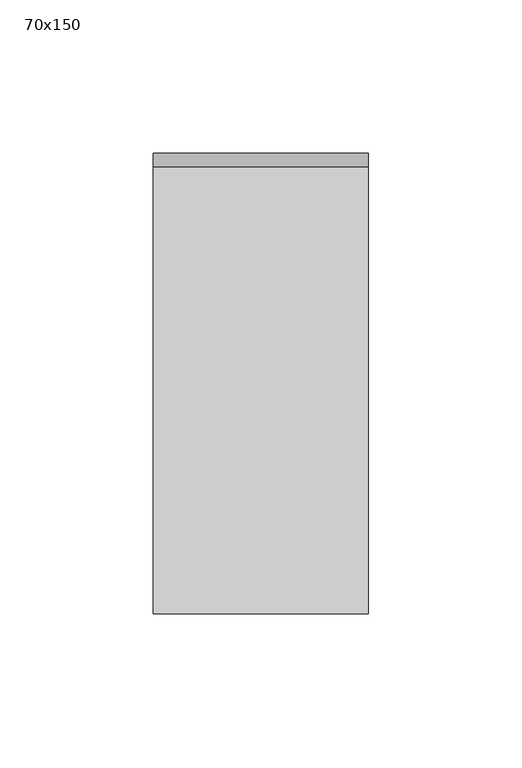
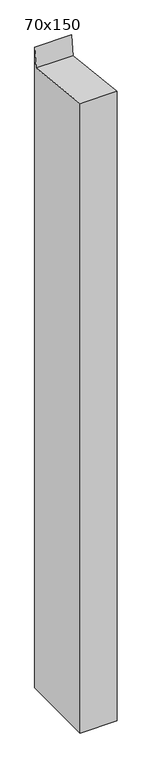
"""IFC4 building model written with IfcOpenShell, lengths in millimetres: member geometry, 長方形のマリオン : 70x150."""

from ifc_helpers import new_model, si_unit, frame, origin, place, context, project, spatial, polyline, outline, extrude, source, transform, mapped, element, save


def member_70x150_0eadbfe7(model_context):
    return source(origin(), model_context, "Body", "SweptSolid", [
        extrude(outline(polyline([(-75.0, 8.1977368), (70.6284068, -8.1465891), (75.0, 30.80443), (75.0, -1257.8857719), (-75.0, -1257.8857719), (-75.0, 8.1977368)])), frame((-70.0, 0.0, 0.0), z_axis=(1.0, 0.0, 0.0), x_axis=(0.0, 1.0, 0.0)), (0.0, 0.0, 1.0), 70.0),
    ])


if __name__ == "__main__":
    model = new_model("IFC4")
    model_context = context("Model", 3, world=origin())
    ifc_project = project(units=[si_unit("LENGTHUNIT", "METRE", prefix="MILLI")], contexts=[model_context])
    site = spatial("IfcSite", under=ifc_project)
    building = spatial("IfcBuilding", under=site)
    placement = place(None, origin())
    member_70x150_shape = member_70x150_0eadbfe7(model_context)
    element("IfcMember", 1, ObjectType="長方形のマリオン : 70x150", at=placement, inside=building, context=model_context, shape_type="MappedRepresentation", body=[
        mapped(member_70x150_shape, transform((0.0, 0.0, 0.0), x_axis=(1.0, 0.0, 0.0), y_axis=(0.0, 1.0, 0.0), z_axis=(0.0, 0.0, 1.0))),
    ])
    save(model, "model.ifc")
